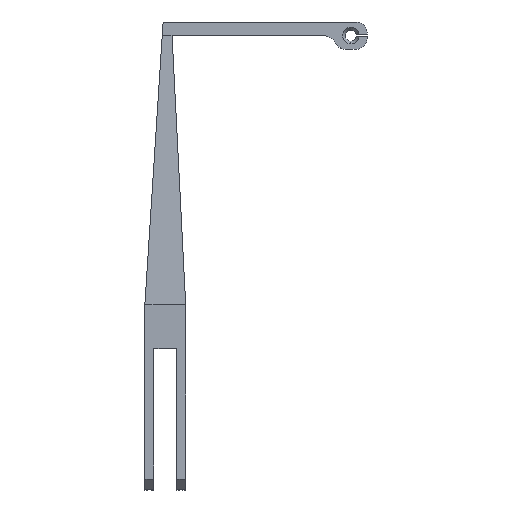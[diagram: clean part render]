
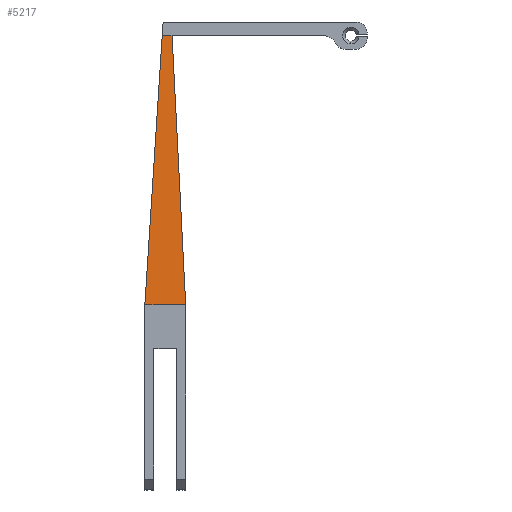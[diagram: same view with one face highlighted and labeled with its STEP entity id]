
A CAD part, top view. The second image highlights one B-rep face of the part: STEP entity #5217.
In plain terms, the highlighted planar face has unit normal (0, 0.075, 0.997) as drawn and (0, 0.997, -0.076) by its records, which use the part's own axes.
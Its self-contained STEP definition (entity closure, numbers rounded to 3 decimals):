
#160 = LINE ( 'NONE', #3713, #403 ) ;
#403 = VECTOR ( 'NONE', #853, 1000. ) ;
#853 = DIRECTION ( 'NONE',  ( 1., 0., 0. ) ) ;
#876 = VERTEX_POINT ( 'NONE', #5595 ) ;
#928 = VECTOR ( 'NONE', #5383, 1000. ) ;
#930 = CARTESIAN_POINT ( 'NONE',  ( -5.534, 7.771, -163.548 ) ) ;
#955 = ORIENTED_EDGE ( 'NONE', *, *, #4462, .T. ) ;
#1051 = VERTEX_POINT ( 'NONE', #3738 ) ;
#1168 = FACE_OUTER_BOUND ( 'NONE', #5187, .T. ) ;
#1210 = EDGE_CURVE ( 'NONE', #6269, #1051, #2439, .T. ) ;
#1250 = EDGE_CURVE ( 'NONE', #876, #1051, #3922, .T. ) ;
#1440 = EDGE_CURVE ( 'NONE', #2060, #876, #6889, .T. ) ;
#1458 = VECTOR ( 'NONE', #2248, 1000. ) ;
#2060 = VERTEX_POINT ( 'NONE', #4852 ) ;
#2248 = DIRECTION ( 'NONE',  ( -0.05, -0.075, -0.996 ) ) ;
#2439 = LINE ( 'NONE', #4460, #1458 ) ;
#3398 = VECTOR ( 'NONE', #4182, 1000. ) ;
#3664 = ORIENTED_EDGE ( 'NONE', *, *, #1440, .F. ) ;
#3713 = CARTESIAN_POINT ( 'NONE',  ( -11.69, 15.01, -67.99 ) ) ;
#3738 = CARTESIAN_POINT ( 'NONE',  ( -1.69, 7.51, -166.99 ) ) ;
#3922 = LINE ( 'NONE', #4740, #3398 ) ;
#4182 = DIRECTION ( 'NONE',  ( 1., 0., 0. ) ) ;
#4259 = DIRECTION ( 'NONE',  ( 0., -0.997, 0.076 ) ) ;
#4313 = AXIS2_PLACEMENT_3D ( 'NONE', #5374, #4259, #7071 ) ;
#4460 = CARTESIAN_POINT ( 'NONE',  ( -1.715, 7.472, -167.491 ) ) ;
#4461 = ORIENTED_EDGE ( 'NONE', *, *, #1210, .T. ) ;
#4462 = EDGE_CURVE ( 'NONE', #2060, #6269, #160, .T. ) ;
#4633 = CARTESIAN_POINT ( 'NONE',  ( 3.31, 15.01, -67.99 ) ) ;
#4740 = CARTESIAN_POINT ( 'NONE',  ( -11.69, 7.51, -166.99 ) ) ;
#4852 = CARTESIAN_POINT ( 'NONE',  ( -11.69, 15.01, -67.99 ) ) ;
#5187 = EDGE_LOOP ( 'NONE', ( #955, #4461, #5606, #3664 ) ) ;
#5217 = ADVANCED_FACE ( 'NONE', ( #1168 ), #5931, .F. ) ;
#5374 = CARTESIAN_POINT ( 'NONE',  ( -11.69, 7.51, -166.99 ) ) ;
#5383 = DIRECTION ( 'NONE',  ( 0.064, -0.075, -0.995 ) ) ;
#5595 = CARTESIAN_POINT ( 'NONE',  ( -5.312, 7.51, -166.99 ) ) ;
#5606 = ORIENTED_EDGE ( 'NONE', *, *, #1250, .F. ) ;
#5931 = PLANE ( 'NONE',  #4313 ) ;
#6269 = VERTEX_POINT ( 'NONE', #4633 ) ;
#6889 = LINE ( 'NONE', #930, #928 ) ;
#7071 = DIRECTION ( 'NONE',  ( 0., -0.076, -0.997 ) ) ;
